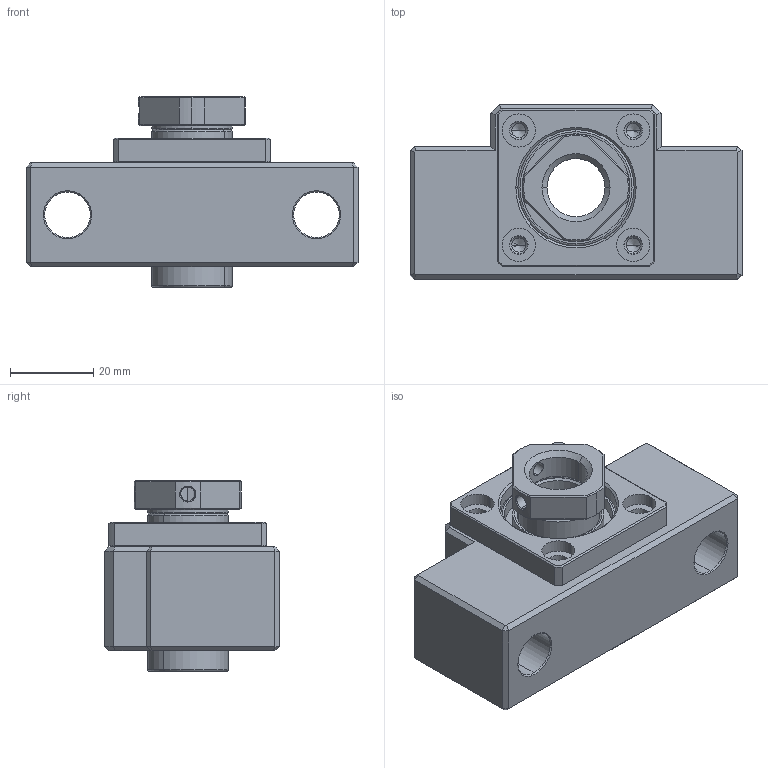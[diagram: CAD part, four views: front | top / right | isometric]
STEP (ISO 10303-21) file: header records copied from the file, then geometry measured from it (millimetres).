
FILE_DESCRIPTION (( 'STEP AP203' ), '1' );
FILE_NAME ('LK15組合圖.STEP', '2014-05-08T07:22:50', ( '' ), ( '' ), 'SwSTEP 2.0', 'SolidWorks 2014', '' );
FILE_SCHEMA (( 'CONFIG_CONTROL_DESIGN' ));
Length unit declared in the file: millimetre
Products named in the file (1): LK15組合圖
Bounding box: 80 x 42 x 46 mm (x, y, z)
Volume: 62234.8 mm3; surface area: 34805.5 mm2
Topology: 35 solids, 35 shells, 424 faces, 971 edges, 577 vertices
Faces by surface type: cylinder 105, plane 101, torus 92, cone 74, sphere 48, bspline 4
Entity records: 11463 total; most frequent: CARTESIAN_POINT 2287, DIRECTION 2130, ORIENTED_EDGE 1686, AXIS2_PLACEMENT_3D 914, EDGE_CURVE 843, VERTEX_POINT 505, CIRCLE 493, EDGE_LOOP 478
